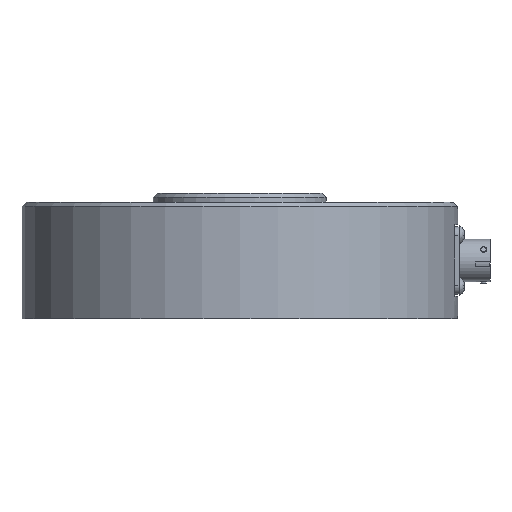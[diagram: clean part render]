
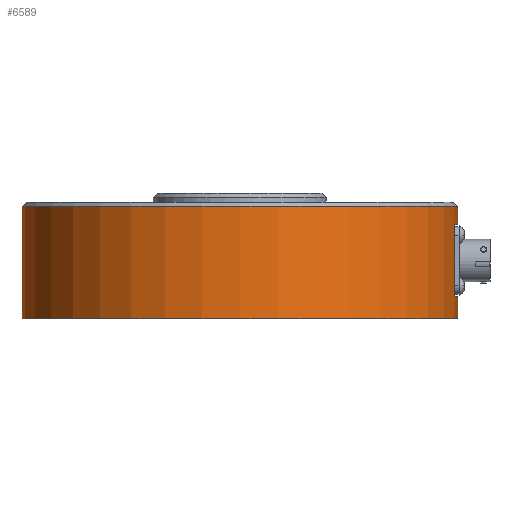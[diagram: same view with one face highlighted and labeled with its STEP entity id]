
A CAD part, front view. The second image highlights one B-rep face of the part: STEP entity #6589.
In plain terms, the highlighted cylindrical face has radius 76.975 mm (diameter 153.949 mm), a partial arc.
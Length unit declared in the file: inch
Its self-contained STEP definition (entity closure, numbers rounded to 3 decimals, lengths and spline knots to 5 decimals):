
#16 = CARTESIAN_POINT ( 'NONE',  ( 0., 0., -0.438 ) ) ;
#40 = VERTEX_POINT ( 'NONE', #7872 ) ;
#393 = ORIENTED_EDGE ( 'NONE', *, *, #5158, .F. ) ;
#539 = DIRECTION ( 'NONE',  ( 0., 0., 1. ) ) ;
#790 = AXIS2_PLACEMENT_3D ( 'NONE', #9127, #1142, #8363 ) ;
#813 = DIRECTION ( 'NONE',  ( -1., 0., 0. ) ) ;
#1142 = DIRECTION ( 'NONE',  ( 0., 0., -1. ) ) ;
#1218 = ORIENTED_EDGE ( 'NONE', *, *, #3996, .F. ) ;
#1256 = DIRECTION ( 'NONE',  ( 0., 0., -1. ) ) ;
#1361 = DIRECTION ( 'NONE',  ( 0., 0., -1. ) ) ;
#1539 = DIRECTION ( 'NONE',  ( 0., 0., -1. ) ) ;
#1916 = CARTESIAN_POINT ( 'NONE',  ( 0., 0., -1.75 ) ) ;
#2036 = ORIENTED_EDGE ( 'NONE', *, *, #3559, .F. ) ;
#2041 = DIRECTION ( 'NONE',  ( 0., 0., 1. ) ) ;
#2237 = VERTEX_POINT ( 'NONE', #9383 ) ;
#2268 = CARTESIAN_POINT ( 'NONE',  ( -3.0305, 0., -0.185 ) ) ;
#2368 = EDGE_CURVE ( 'NONE', #3085, #2831, #5942, .T. ) ;
#2721 = DIRECTION ( 'NONE',  ( -1., 0., 0. ) ) ;
#2831 = VERTEX_POINT ( 'NONE', #6724 ) ;
#3066 = VECTOR ( 'NONE', #1539, 39.37008 ) ;
#3085 = VERTEX_POINT ( 'NONE', #4753 ) ;
#3181 = FACE_OUTER_BOUND ( 'NONE', #4225, .T. ) ;
#3234 = AXIS2_PLACEMENT_3D ( 'NONE', #5314, #539, #6117 ) ;
#3480 = CARTESIAN_POINT ( 'NONE',  ( 3.0305, 0., -0.185 ) ) ;
#3559 = EDGE_CURVE ( 'NONE', #4201, #3085, #8441, .T. ) ;
#3682 = AXIS2_PLACEMENT_3D ( 'NONE', #1916, #7552, #2721 ) ;
#3996 = EDGE_CURVE ( 'NONE', #6591, #2237, #10253, .T. ) ;
#4201 = VERTEX_POINT ( 'NONE', #5049 ) ;
#4225 = EDGE_LOOP ( 'NONE', ( #4958, #9773, #4790, #7884, #6827, #2036, #393, #1218 ) ) ;
#4561 = CARTESIAN_POINT ( 'NONE',  ( 2.98897, -0.5, -0.9675 ) ) ;
#4631 = CIRCLE ( 'NONE', #3682, 3.0305 ) ;
#4753 = CARTESIAN_POINT ( 'NONE',  ( 3.0305, 0., -1.438 ) ) ;
#4790 = ORIENTED_EDGE ( 'NONE', *, *, #9686, .T. ) ;
#4798 = EDGE_CURVE ( 'NONE', #5865, #6218, #8539, .T. ) ;
#4958 = ORIENTED_EDGE ( 'NONE', *, *, #7028, .F. ) ;
#5042 = LINE ( 'NONE', #5164, #9036 ) ;
#5049 = CARTESIAN_POINT ( 'NONE',  ( 2.98897, -0.5, -1.438 ) ) ;
#5158 = EDGE_CURVE ( 'NONE', #2237, #4201, #5594, .T. ) ;
#5164 = CARTESIAN_POINT ( 'NONE',  ( 3.0305, 0., -0.185 ) ) ;
#5314 = CARTESIAN_POINT ( 'NONE',  ( 0., 0., -0.185 ) ) ;
#5365 = VECTOR ( 'NONE', #7412, 39.37008 ) ;
#5584 = DIRECTION ( 'NONE',  ( 0., 0., -1. ) ) ;
#5594 = LINE ( 'NONE', #4561, #9307 ) ;
#5865 = VERTEX_POINT ( 'NONE', #2268 ) ;
#5942 = LINE ( 'NONE', #9531, #3066 ) ;
#6117 = DIRECTION ( 'NONE',  ( -1., 0., 0. ) ) ;
#6218 = VERTEX_POINT ( 'NONE', #3480 ) ;
#6589 = ADVANCED_FACE ( 'NONE', ( #3181 ), #7207, .T. ) ;
#6591 = VERTEX_POINT ( 'NONE', #9915 ) ;
#6724 = CARTESIAN_POINT ( 'NONE',  ( 3.0305, 0., -1.75 ) ) ;
#6827 = ORIENTED_EDGE ( 'NONE', *, *, #2368, .F. ) ;
#6856 = CARTESIAN_POINT ( 'NONE',  ( 0., 0., -1.438 ) ) ;
#7028 = EDGE_CURVE ( 'NONE', #6218, #6591, #5042, .T. ) ;
#7207 = CYLINDRICAL_SURFACE ( 'NONE', #790, 3.0305 ) ;
#7412 = DIRECTION ( 'NONE',  ( 0., 0., -1. ) ) ;
#7527 = LINE ( 'NONE', #9731, #5365 ) ;
#7552 = DIRECTION ( 'NONE',  ( 0., 0., -1. ) ) ;
#7676 = DIRECTION ( 'NONE',  ( -1., 0., 0. ) ) ;
#7872 = CARTESIAN_POINT ( 'NONE',  ( -3.0305, 0., -1.75 ) ) ;
#7884 = ORIENTED_EDGE ( 'NONE', *, *, #8814, .F. ) ;
#8363 = DIRECTION ( 'NONE',  ( -1., 0., 0. ) ) ;
#8441 = CIRCLE ( 'NONE', #10084, 3.0305 ) ;
#8539 = CIRCLE ( 'NONE', #3234, 3.0305 ) ;
#8814 = EDGE_CURVE ( 'NONE', #2831, #40, #4631, .T. ) ;
#9036 = VECTOR ( 'NONE', #1256, 39.37008 ) ;
#9127 = CARTESIAN_POINT ( 'NONE',  ( 0., 0., -0.185 ) ) ;
#9307 = VECTOR ( 'NONE', #1361, 39.37008 ) ;
#9354 = AXIS2_PLACEMENT_3D ( 'NONE', #16, #5584, #813 ) ;
#9383 = CARTESIAN_POINT ( 'NONE',  ( 2.98897, -0.5, -0.438 ) ) ;
#9531 = CARTESIAN_POINT ( 'NONE',  ( 3.0305, 0., -0.185 ) ) ;
#9686 = EDGE_CURVE ( 'NONE', #5865, #40, #7527, .T. ) ;
#9731 = CARTESIAN_POINT ( 'NONE',  ( -3.0305, 0., -0.185 ) ) ;
#9773 = ORIENTED_EDGE ( 'NONE', *, *, #4798, .F. ) ;
#9915 = CARTESIAN_POINT ( 'NONE',  ( 3.0305, 0., -0.438 ) ) ;
#10084 = AXIS2_PLACEMENT_3D ( 'NONE', #6856, #2041, #7676 ) ;
#10253 = CIRCLE ( 'NONE', #9354, 3.0305 ) ;
